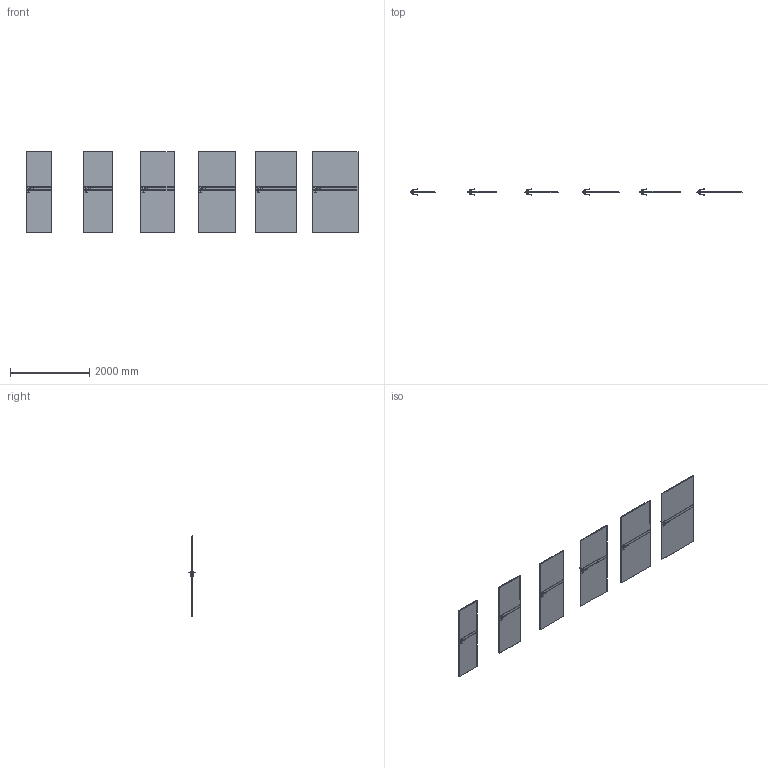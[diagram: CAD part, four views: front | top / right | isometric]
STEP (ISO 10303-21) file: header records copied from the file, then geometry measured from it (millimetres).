
FILE_DESCRIPTION(/* description */ (''),/* implementation_level */ '2;1');
FILE_NAME(/* name */ '049724_A_2-Skrzydło DESIRE model 4_ polska norma _PN__ przylgowe..stp',/* time_stamp */ '2024-02-23T14:57:08+01:00',/* author */ (''),/* organization */ (''),/* preprocessor_version */ 'ST-DEVELOPER v16',/* originating_system */ 'SIEMENS PLM Software NX 11.0',/* authorisation */ '');
FILE_SCHEMA (('AUTOMOTIVE_DESIGN { 1 0 10303 214 3 1 1 1 }'));
Length unit declared in the file: millimetre
Products named in the file (1): bkni3644DE08ayzo
Bounding box: 8394 x 153.27 x 2030 mm (x, y, z)
Volume: 418559109.9 mm3; surface area: 23833316.3 mm2
Topology: 54 solids, 54 shells, 1320 faces, 3108 edges, 1776 vertices
Faces by surface type: plane 696, cylinder 264, bspline 192, sphere 168
Entity records: 43036 total; most frequent: CARTESIAN_POINT 14461, ORIENTED_EDGE 5880, DIRECTION 5558, EDGE_CURVE 2940, LINE 1860, VECTOR 1860, AXIS2_PLACEMENT_3D 1849, VERTEX_POINT 1776
